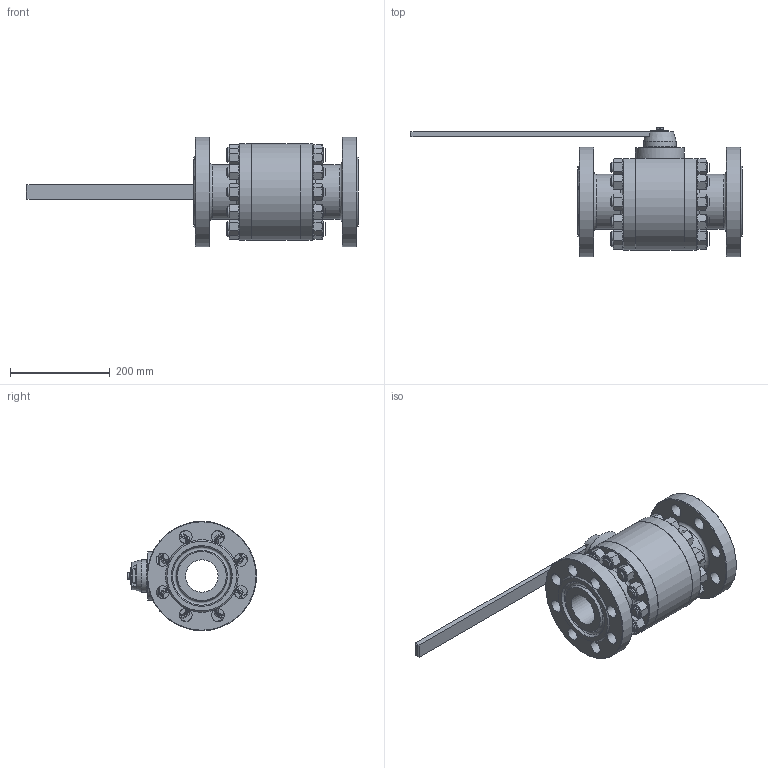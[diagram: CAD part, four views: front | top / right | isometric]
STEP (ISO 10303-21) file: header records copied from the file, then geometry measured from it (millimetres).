
FILE_DESCRIPTION(('STEP AP203'), '1');
FILE_NAME('ZARDP 065.080.27.Ð.stp', '2013-12-11T08:35:35', ('1'), ('1'), 'ASCON STEP Converter 1.3', 'Kompas 3D', '');
FILE_SCHEMA(('CONFIG_CONTROL_DESIGN','SUPPORT_RESOURCE_SCHEMA'));
Length unit declared in the file: millimetre
Products named in the file (1): 2
Bounding box: 667 x 259.5 x 220 mm (x, y, z)
Surface area: 701452.4 mm2 (no closed solid volume)
Topology: 0 solids, 52 shells, 871 faces, 2003 edges, 1262 vertices
Faces by surface type: plane 444, cone 234, cylinder 187, torus 6
Full cylindrical faces by diameter (mm): 8 x3, 8.5 x1, 10 x6, 10.106 x6, 12 x6, 13 x7, 17.294 x22, 18 x6, 20 x50, 22 x22, 26 x16, 28.7 x1, 29.8 x1, 30 x1, 31 x1, 36 x1, 40 x1, 40.5 x1, 65 x3, 98 x1, 110 x2, 120 x1, 220 x2
Entity records: 37547 total; most frequent: CARTESIAN_POINT 17906, DIRECTION 4159, ORIENTED_EDGE 3938, EDGE_CURVE 1969, AXIS2_PLACEMENT_3D 1682, VERTEX_POINT 1262, EDGE_LOOP 1033, ADVANCED_FACE 871
